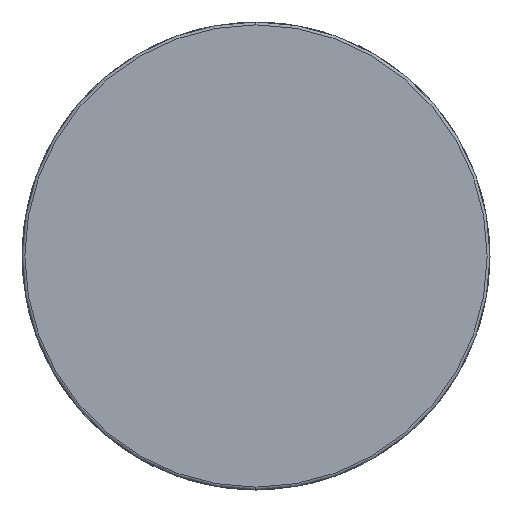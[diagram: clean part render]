
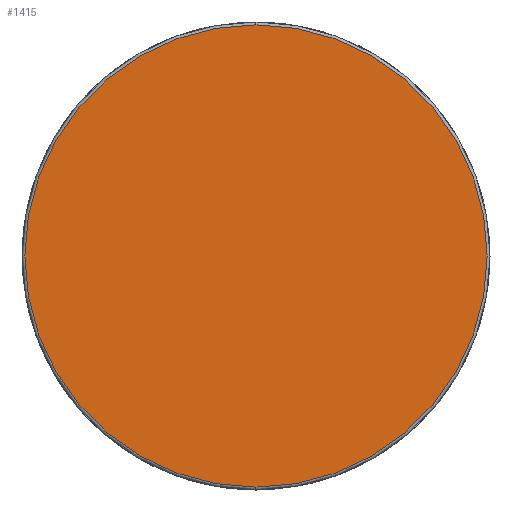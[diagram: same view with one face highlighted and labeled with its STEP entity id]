
A CAD part, left-side view. The second image highlights one B-rep face of the part: STEP entity #1415.
In plain terms, the highlighted planar face has unit normal (-1, 0, 0).
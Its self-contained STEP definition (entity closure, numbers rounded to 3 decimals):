
#4 = CARTESIAN_POINT ( 'NONE',  ( 0., 0., 0. ) ) ;
#537 = EDGE_CURVE ( 'NONE', #2949, #4007, #3559, .T. ) ;
#814 = ORIENTED_EDGE ( 'NONE', *, *, #2701, .T. ) ;
#993 = DIRECTION ( 'NONE',  ( -1., 0., 0. ) ) ;
#1099 = CARTESIAN_POINT ( 'NONE',  ( 0., 0., 40.5 ) ) ;
#1164 = CARTESIAN_POINT ( 'NONE',  ( 0., 0., 0. ) ) ;
#1276 = CARTESIAN_POINT ( 'NONE',  ( 0., 0., 0. ) ) ;
#1412 = CARTESIAN_POINT ( 'NONE',  ( 0., 0., -40.5 ) ) ;
#1415 = ADVANCED_FACE ( 'NONE', ( #3972 ), #2593, .F. ) ;
#1497 = DIRECTION ( 'NONE',  ( -1., 0., 0. ) ) ;
#2041 = DIRECTION ( 'NONE',  ( 0., 0., -1. ) ) ;
#2140 = DIRECTION ( 'NONE',  ( 1., 0., 0. ) ) ;
#2158 = DIRECTION ( 'NONE',  ( 0., 0., -1. ) ) ;
#2224 = AXIS2_PLACEMENT_3D ( 'NONE', #4, #2140, #2158 ) ;
#2311 = EDGE_LOOP ( 'NONE', ( #814, #3301 ) ) ;
#2593 = PLANE ( 'NONE',  #2224 ) ;
#2701 = EDGE_CURVE ( 'NONE', #4007, #2949, #3020, .T. ) ;
#2790 = AXIS2_PLACEMENT_3D ( 'NONE', #1164, #1497, #3973 ) ;
#2949 = VERTEX_POINT ( 'NONE', #1099 ) ;
#3020 = CIRCLE ( 'NONE', #2790, 40.5 ) ;
#3169 = AXIS2_PLACEMENT_3D ( 'NONE', #1276, #993, #2041 ) ;
#3301 = ORIENTED_EDGE ( 'NONE', *, *, #537, .T. ) ;
#3559 = CIRCLE ( 'NONE', #3169, 40.5 ) ;
#3972 = FACE_OUTER_BOUND ( 'NONE', #2311, .T. ) ;
#3973 = DIRECTION ( 'NONE',  ( 0., 0., -1. ) ) ;
#4007 = VERTEX_POINT ( 'NONE', #1412 ) ;
